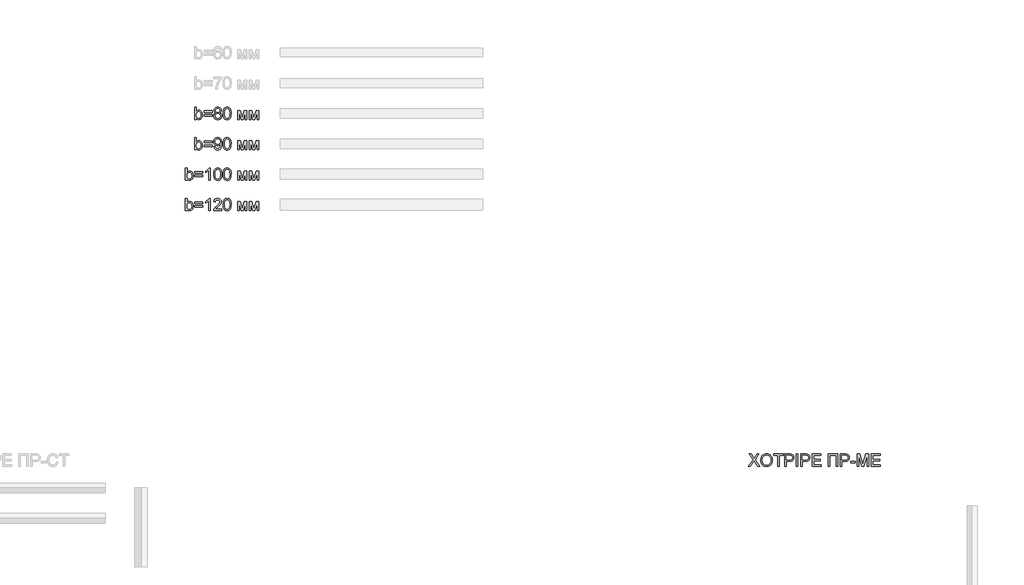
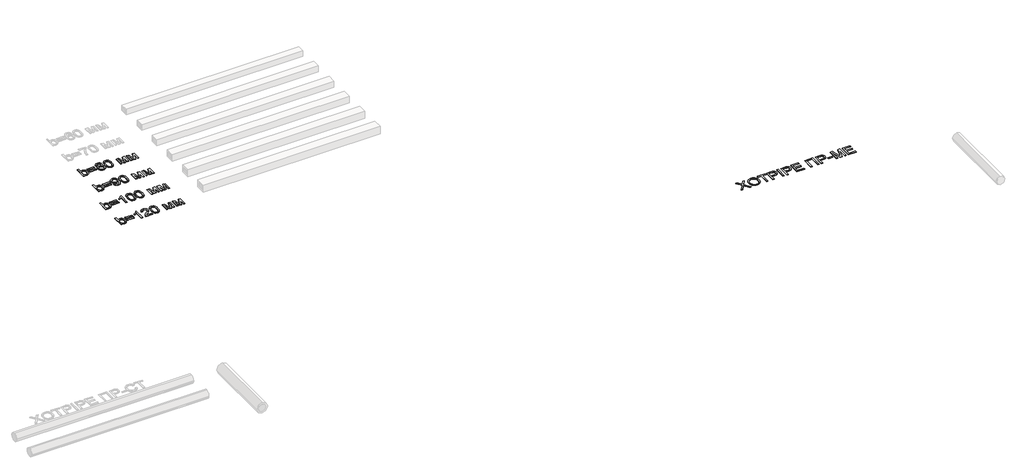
# One storey, part 68 of 86: 5 proxies.
"""IFC4 building model written with IfcOpenShell, lengths in millimetres."""

from ifc_helpers import new_model, si_unit, origin, origin_with_axes, place, context, project, spatial, polyline, outline, extrude, element, save

model = new_model("IFC4")

# Units and contexts
model_context = context("Model", 3, world=origin())
ifc_project = project(units=[si_unit("LENGTHUNIT", "METRE", prefix="MILLI")], contexts=[model_context])

# Site, building, storey
site = spatial("IfcSite", under=ifc_project)
building = spatial("IfcBuilding", under=site)
storey = spatial("IfcBuildingStorey", under=building, Name="Уровень 1", Elevation=0.0)

# Proxies
placement = place(None, origin())
element("IfcBuildingElementProxy", 1, Name="Текст модели 1", ObjectType="Текст модели 1", at=placement, inside=storey, context=model_context, shape_type="SweptSolid", body=[
    extrude(outline(polyline([(89771.0068445, 47669.2937088), (89695.6646119, 47669.2937088), (89695.6646119, 48272.0315697), (89771.0068445, 48272.0315697), (89771.0068445, 48048.5064694), (89795.7836969, 48080.3742473), (89823.7611226, 48103.1369457), (89854.9391217, 48116.7945648), (89889.3176942, 48121.3471045), (89928.1292447, 48117.2452202), (89964.8070796, 48104.9395675), (89997.2542716, 48085.2026984), (90023.3738932, 48058.8071653), (90043.8465263, 48026.0104854), (90059.3527524, 47987.0701762), (90069.1200193, 47943.6049185), (90072.375775, 47897.233393), (90069.0050562, 47843.7249568), (90058.8928999, 47796.6544555), (90042.039306, 47756.0218892), (90018.4442745, 47721.8272577), (89990.1219594, 47694.7235517), (89959.0865146, 47675.3637617), (89925.33794, 47663.7478877), (89888.8762358, 47659.8759297), (89853.3664262, 47664.8699278), (89821.8849245, 47679.8519221), (89794.4317306, 47704.8219125), (89771.0068445, 47739.7798991), (89771.0068445, 47669.2937088)]), holes=[polyline([(89771.0068445, 47893.7017259), (89776.1571925, 47830.8674811), (89782.5951274, 47807.065516), (89791.6082363, 47788.3403224), (89809.8643803, 47765.0993774), (89831.0819744, 47748.4987024), (89855.2610185, 47738.5382973), (89882.4015127, 47735.2181623), (89904.9342849, 47737.6645776), (89925.8851645, 47745.0038234), (89945.2541516, 47757.2358997), (89963.041246, 47774.3608066), (89977.9128757, 47796.3325588), (89988.5354683, 47823.105171), (89994.9090239, 47854.6786432), (89997.0335424, 47891.0529755), (89994.9963958, 47928.1170865), (89988.8849562, 47959.9940614), (89978.6992234, 47986.6839001), (89964.4391976, 48008.1866028), (89947.2912981, 48024.7320955), (89928.4419444, 48036.5503046), (89907.8911364, 48043.64123), (89885.6388742, 48046.0048719), (89863.106102, 48043.5584566), (89842.1552224, 48036.2192108), (89822.7862354, 48023.9871344), (89804.9991409, 48006.8622276), (89790.1275112, 47985.1112046), (89779.5049186, 47959.00078), (89773.1313631, 47928.5309538), (89771.0068445, 47893.7017259)])]), origin_with_axes(), (0.0, 0.0, 1.0), 20.0),
    extrude(outline(polyline([(90543.2647288, 48017.7515346), (90147.7180076, 48017.7515346), (90147.7180076, 48093.0937672), (90543.2647288, 48093.0937672), (90543.2647288, 48017.7515346)])), origin_with_axes(), (0.0, 0.0, 1.0), 20.0),
    extrude(outline(polyline([(90543.2647288, 47838.8137322), (90147.7180076, 47838.8137322), (90147.7180076, 47914.1559648), (90543.2647288, 47914.1559648), (90543.2647288, 47838.8137322)])), origin_with_axes(), (0.0, 0.0, 1.0), 20.0),
    extrude(outline(polyline([(90737.8007279, 48001.2704212), (90697.4624671, 48021.136049), (90681.8044897, 48033.7176132), (90669.1539476, 48048.065011), (90652.4337109, 48081.5054844), (90646.8602987, 48120.9056461), (90649.8953251, 48151.6329897), (90659.0004045, 48179.8035535), (90674.1755368, 48205.4173374), (90695.420722, 48228.4743415), (90721.7150876, 48247.5306288), (90752.0377611, 48261.1422626), (90786.3887424, 48269.3092429), (90824.7680315, 48272.0315697), (90863.3312617, 48269.2448636), (90897.9397604, 48260.8847452), (90928.5935276, 48246.9512147), (90955.2925634, 48227.4442719), (90976.9240247, 48203.9366124), (90992.3750685, 48178.0009317), (91001.6456948, 48149.6372299), (91004.7359036, 48118.8455069), (90999.2360677, 48080.7145381), (90982.7365603, 48047.8442818), (90970.3159444, 48033.593453), (90955.0534401, 48021.0808667), (90916.0027663, 48001.2704212), (90940.7658231, 47990.7352006), (90962.3742918, 47977.3764857), (90980.8281724, 47961.1942764), (90996.1274649, 47942.1885728), (91008.1342135, 47920.7824392), (91016.7104625, 47897.3989399), (91021.8562119, 47872.0380749), (91023.5714617, 47844.6998441), (91020.1685533, 47807.1206983), (91009.9598279, 47772.6685494), (90992.9452856, 47741.3433976), (90969.1249264, 47713.1452426), (90939.7495491, 47689.8399182), (90906.0699525, 47673.1932579), (90868.0861365, 47663.2052618), (90825.7981011, 47659.8759297), (90783.5100658, 47663.2190574), (90745.5262498, 47673.2484402), (90711.8466531, 47689.9640784), (90682.4712758, 47713.3659718), (90658.6509166, 47741.7618633), (90641.6363743, 47773.4594957), (90631.427649, 47808.458869), (90628.0247405, 47846.7599833), (90629.8089682, 47875.3444143), (90635.1616512, 47901.5008242), (90644.0827896, 47925.2292128), (90656.5723833, 47946.5295804), (90672.3545209, 47965.0156506), (90691.1532909, 47980.3011475), (90712.9686932, 47992.3860711), (90737.8007279, 48001.2704212)]), holes=[polyline([(90722.2025313, 48118.6983541), (90723.8717958, 48101.4262944), (90728.8795895, 48085.8097037), (90737.2259122, 48071.848582), (90748.9107641, 48059.5429293), (90763.7869923, 48049.4997508), (90781.707444, 48042.3260519), (90802.6721192, 48038.0218326), (90826.6810179, 48036.5870928), (90850.0967069, 48038.0126355), (90870.6061281, 48042.2892637), (90888.2092816, 48049.4169774), (90902.9061673, 48059.3957765), (90914.4944501, 48071.4439118), (90922.771795, 48084.7796342), (90927.738202, 48099.4029435), (90929.393671, 48115.3138398), (90927.6830197, 48131.8455369), (90922.5510658, 48147.0068736), (90913.9978095, 48160.7978499), (90902.0232505, 48173.2184658), (90886.995271, 48183.486972), (90869.2817529, 48190.8216193), (90848.8826963, 48195.2224076), (90825.7981011, 48196.6893371), (90802.5341634, 48195.2545973), (90782.0385378, 48190.950378), (90764.3112241, 48183.7766791), (90749.3522225, 48173.7335006), (90737.4742326, 48161.6853652), (90728.9899541, 48148.4967957), (90723.899387, 48134.167792), (90722.2025313, 48118.6983541)]), polyline([(90703.3669731, 47849.4087336), (90706.5123642, 47820.5851793), (90715.9485374, 47792.68133), (90733.3677498, 47768.345936), (90760.4622588, 47750.2277477), (90792.9094507, 47738.9705587), (90826.3867123, 47735.2181623), (90853.628374, 47737.1909295), (90877.6694624, 47743.1092311), (90898.5099775, 47752.9730671), (90916.1499191, 47766.7824375), (90930.1846172, 47783.6360314), (90940.2094016, 47802.632538), (90946.2242722, 47823.7719571), (90948.2292291, 47847.0542889), (90946.1598929, 47870.7091012), (90939.9518842, 47892.2301979), (90929.6052031, 47911.617579), (90915.1198495, 47928.8712446), (90897.0016613, 47943.0347014), (90875.7564761, 47953.1514563), (90851.3842939, 47959.2215092), (90823.8851147, 47961.2448602), (90797.0435247, 47959.2491003), (90773.3197345, 47953.2618209), (90752.7137442, 47943.2830218), (90735.2255539, 47929.312703), (90721.2874248, 47912.344146), (90711.3316183, 47893.3706321), (90705.3581344, 47872.3921613), (90703.3669731, 47849.4087336)])]), origin_with_axes(), (0.0, 0.0, 1.0), 20.0),
    extrude(outline(polyline([(91089.4959153, 47965.8065969), (91095.0325393, 48062.2836501), (91101.9533193, 48103.1967265), (91111.6424114, 48139.2261694), (91124.0584287, 48170.6662845), (91139.1599846, 48197.8113772), (91156.9470791, 48220.6614476), (91177.4197121, 48239.2164957), (91200.6468616, 48253.5730906), (91226.6975054, 48263.8278012), (91255.5716435, 48269.9806276), (91287.2692759, 48272.0315697), (91333.6959837, 48267.1755274), (91375.2666491, 48252.6074004), (91410.0314977, 48228.8974058), (91436.0407547, 48196.6157607), (91455.6856533, 48156.0383766), (91471.3574262, 48107.4411651), (91481.6213339, 48045.7289604), (91485.0426365, 47965.8065969), (91479.5611947, 47869.8813667), (91472.7093926, 47829.106246), (91463.1168696, 47793.1227884), (91450.7974212, 47761.6688778), (91435.7648432, 47734.4823983), (91418.0191355, 47711.56335), (91397.560298, 47692.9117329), (91374.3055574, 47678.458569), (91348.1721402, 47668.1348805), (91319.1600463, 47661.9406674), (91287.2692759, 47659.8759297), (91245.7721868, 47663.4627792), (91208.9839873, 47674.2233275), (91176.9046773, 47692.1575748), (91149.5342569, 47717.265521), (91123.2674824, 47762.6529621), (91104.5055007, 47819.2056218), (91093.2483116, 47886.9235001), (91089.4959153, 47965.8065969)]), holes=[polyline([(91164.8381479, 47965.9537497), (91167.0454398, 47900.456959), (91173.6673158, 47847.440565), (91184.7037756, 47806.9045676), (91200.1548194, 47778.848967), (91218.8432248, 47759.7604899), (91239.5917693, 47746.1258635), (91262.400453, 47737.9450876), (91287.2692759, 47735.2181623), (91312.1380987, 47737.9542847), (91334.9467824, 47746.1626517), (91355.695327, 47759.8432634), (91374.3837323, 47778.9961198), (91389.8347761, 47807.0977057), (91400.871236, 47847.624506), (91407.4931119, 47900.5765206), (91409.7004039, 47965.9537497), (91407.5666883, 48029.7168965), (91401.1655416, 48081.79979), (91390.4969637, 48122.2024301), (91375.5609547, 48150.9248169), (91357.185249, 48170.9467945), (91336.1975812, 48185.248207), (91312.5979512, 48193.8290546), (91286.3863591, 48196.6893371), (91261.6462949, 48194.1693454), (91239.2238873, 48186.6093704), (91219.1191363, 48174.0094121), (91201.3320418, 48156.3694704), (91185.3659632, 48125.0995008), (91173.9616213, 48082.9402242), (91167.1190162, 48029.8916405), (91164.8381479, 47965.9537497)])]), origin_with_axes(), (0.0, 0.0, 1.0), 20.0),
    extrude(outline(polyline([(91805.2471251, 48111.9293254), (91934.8887402, 48111.9293254), (92034.8054901, 47757.5853876), (92142.5213382, 48111.9293254), (92266.7182998, 48111.9293254), (92266.7182998, 47669.2937088), (92191.3760672, 47669.2937088), (92191.3760672, 48025.6977857), (92083.0716078, 47669.2937088), (91984.1849275, 47669.2937088), (91880.5893577, 48042.7675103), (91880.5893577, 47669.2937088), (91805.2471251, 47669.2937088), (91805.2471251, 48111.9293254)])), origin_with_axes(), (0.0, 0.0, 1.0), 20.0),
    extrude(outline(polyline([(92379.7316487, 48111.9293254), (92509.3732638, 48111.9293254), (92609.2900137, 47757.5853876), (92717.0058619, 48111.9293254), (92841.2028235, 48111.9293254), (92841.2028235, 47669.2937088), (92765.8605909, 47669.2937088), (92765.8605909, 48025.6977857), (92657.5561315, 47669.2937088), (92558.6694512, 47669.2937088), (92455.0738813, 48042.7675103), (92455.0738813, 47669.2937088), (92379.7316487, 47669.2937088), (92379.7316487, 48111.9293254)])), origin_with_axes(), (0.0, 0.0, 1.0), 20.0),
])
element("IfcBuildingElementProxy", 2, Name="Текст модели 1", ObjectType="Текст модели 1", at=placement, inside=storey, context=model_context, shape_type="SweptSolid", body=[
    extrude(outline(polyline([(89771.0068445, 46169.2937088), (89695.6646119, 46169.2937088), (89695.6646119, 46772.0315697), (89771.0068445, 46772.0315697), (89771.0068445, 46548.5064694), (89795.7836969, 46580.3742473), (89823.7611226, 46603.1369457), (89854.9391217, 46616.7945648), (89889.3176942, 46621.3471045), (89928.1292447, 46617.2452202), (89964.8070796, 46604.9395675), (89997.2542716, 46585.2026984), (90023.3738932, 46558.8071653), (90043.8465263, 46526.0104854), (90059.3527524, 46487.0701762), (90069.1200193, 46443.6049185), (90072.375775, 46397.233393), (90069.0050562, 46343.7249568), (90058.8928999, 46296.6544555), (90042.039306, 46256.0218892), (90018.4442745, 46221.8272577), (89990.1219594, 46194.7235517), (89959.0865146, 46175.3637617), (89925.33794, 46163.7478877), (89888.8762358, 46159.8759297), (89853.3664262, 46164.8699278), (89821.8849245, 46179.8519221), (89794.4317306, 46204.8219125), (89771.0068445, 46239.7798991), (89771.0068445, 46169.2937088)]), holes=[polyline([(89771.0068445, 46393.7017259), (89776.1571925, 46330.8674811), (89782.5951274, 46307.065516), (89791.6082363, 46288.3403224), (89809.8643803, 46265.0993774), (89831.0819744, 46248.4987024), (89855.2610185, 46238.5382973), (89882.4015127, 46235.2181623), (89904.9342849, 46237.6645776), (89925.8851645, 46245.0038234), (89945.2541516, 46257.2358997), (89963.041246, 46274.3608066), (89977.9128757, 46296.3325588), (89988.5354683, 46323.105171), (89994.9090239, 46354.6786432), (89997.0335424, 46391.0529755), (89994.9963958, 46428.1170865), (89988.8849562, 46459.9940614), (89978.6992234, 46486.6839001), (89964.4391976, 46508.1866028), (89947.2912981, 46524.7320955), (89928.4419444, 46536.5503046), (89907.8911364, 46543.64123), (89885.6388742, 46546.0048719), (89863.106102, 46543.5584566), (89842.1552224, 46536.2192108), (89822.7862354, 46523.9871344), (89804.9991409, 46506.8622276), (89790.1275112, 46485.1112046), (89779.5049186, 46459.00078), (89773.1313631, 46428.5309538), (89771.0068445, 46393.7017259)])]), origin_with_axes(), (0.0, 0.0, 1.0), 20.0),
    extrude(outline(polyline([(90543.2647288, 46517.7515346), (90147.7180076, 46517.7515346), (90147.7180076, 46593.0937672), (90543.2647288, 46593.0937672), (90543.2647288, 46517.7515346)])), origin_with_axes(), (0.0, 0.0, 1.0), 20.0),
    extrude(outline(polyline([(90543.2647288, 46338.8137322), (90147.7180076, 46338.8137322), (90147.7180076, 46414.1559648), (90543.2647288, 46414.1559648), (90543.2647288, 46338.8137322)])), origin_with_axes(), (0.0, 0.0, 1.0), 20.0),
    extrude(outline(polyline([(90637.4425196, 46319.978174), (90712.7847522, 46329.3959531), (90725.660622, 46286.6296712), (90735.1335834, 46270.3646884), (90746.6298957, 46257.5118112), (90760.0208004, 46247.7583398), (90775.1775386, 46240.7915746), (90810.7885157, 46235.2181623), (90842.739067, 46238.8050118), (90871.7833505, 46249.5655601), (90895.9164094, 46266.322585), (90913.1332868, 46287.898864), (90926.1747035, 46316.2625659), (90937.7813804, 46353.3818592), (90945.9483607, 46395.9825942), (90948.6706875, 46440.7906212), (90948.2292291, 46455.505901), (90922.1280015, 46423.6473203), (90887.9701583, 46398.4106154), (90848.2205087, 46381.9662902), (90805.3438622, 46376.4848485), (90769.5535426, 46379.8325746), (90736.6418996, 46389.8757531), (90706.6089332, 46406.6143839), (90679.4546434, 46430.048467), (90656.9540609, 46458.9547948), (90640.8822162, 46492.1101596), (90631.2391094, 46529.5145614), (90628.0247405, 46571.1680003), (90631.3954593, 46614.2101938), (90641.5076156, 46652.8378033), (90658.3612095, 46687.0508288), (90681.956241, 46716.8492704), (90710.628044, 46740.9915264), (90742.7119525, 46758.2359949), (90778.2079665, 46768.582676), (90817.116086, 46772.0315697), (90845.8430713, 46770.063401), (90873.3100608, 46764.158895), (90899.5170544, 46754.3180516), (90924.4640522, 46740.5408709), (90947.3187212, 46723.1216584), (90967.2487283, 46702.3547198), (90984.2540735, 46678.240055), (90998.3347568, 46650.7776641), (91009.3758152, 46618.3856544), (91017.2622855, 46579.4821334), (91021.9941677, 46534.0671011), (91023.5714617, 46482.1405575), (91021.9987662, 46427.6066502), (91017.2806796, 46378.9312638), (91009.417202, 46336.114398), (90998.4083332, 46299.1560531), (90984.2954602, 46267.154918), (90967.1199696, 46239.209682), (90946.8818613, 46215.3203449), (90923.5811354, 46195.4869069), (90897.6868415, 46179.9071044), (90869.668029, 46168.778674), (90839.5246981, 46162.1016158), (90807.2568486, 46159.8759297), (90773.420902, 46162.5016875), (90742.8407112, 46170.3789607), (90715.516276, 46183.5077494), (90691.4475965, 46201.8880536), (90671.2416779, 46225.0232325), (90655.5055255, 46252.4166456), (90644.2391394, 46284.0682928), (90637.4425196, 46319.978174)]), holes=[polyline([(90948.2292291, 46572.9338339), (90946.1966811, 46599.9363724), (90940.099037, 46623.9958548), (90929.9362969, 46645.1122814), (90915.7084607, 46663.2856519), (90898.1145043, 46677.8997642), (90877.8534034, 46688.3384158), (90854.9251581, 46694.6016068), (90829.3297683, 46696.6893371), (90802.915841, 46694.4406584), (90779.0035113, 46687.6946223), (90757.5927792, 46676.4512288), (90738.6836447, 46660.710478), (90723.2326009, 46641.3920747), (90712.196141, 46619.415724), (90705.5742651, 46594.7814259), (90703.3669731, 46567.4891804), (90705.4547034, 46543.0112321), (90711.7178944, 46520.9337139), (90722.156546, 46501.2566257), (90736.7706583, 46483.9799675), (90754.9532259, 46469.9130797), (90776.0972436, 46459.8653027), (90800.2027113, 46453.8366365), (90827.2696291, 46451.8270811), (90852.5109325, 46453.8366365), (90875.4069882, 46459.8653027), (90895.9577961, 46469.9130797), (90914.1633564, 46483.9799675), (90929.0671757, 46501.5969165), (90939.7127609, 46522.2948773), (90946.1001121, 46546.0738497), (90948.2292291, 46572.9338339)])]), origin_with_axes(), (0.0, 0.0, 1.0), 20.0),
    extrude(outline(polyline([(91089.4959153, 46465.8065969), (91095.0325393, 46562.2836501), (91101.9533193, 46603.1967265), (91111.6424114, 46639.2261694), (91124.0584287, 46670.6662845), (91139.1599846, 46697.8113772), (91156.9470791, 46720.6614476), (91177.4197121, 46739.2164957), (91200.6468616, 46753.5730906), (91226.6975054, 46763.8278012), (91255.5716435, 46769.9806276), (91287.2692759, 46772.0315697), (91333.6959837, 46767.1755274), (91375.2666491, 46752.6074004), (91410.0314977, 46728.8974058), (91436.0407547, 46696.6157607), (91455.6856533, 46656.0383766), (91471.3574262, 46607.4411651), (91481.6213339, 46545.7289604), (91485.0426365, 46465.8065969), (91479.5611947, 46369.8813667), (91472.7093926, 46329.106246), (91463.1168696, 46293.1227884), (91450.7974212, 46261.6688778), (91435.7648432, 46234.4823983), (91418.0191355, 46211.56335), (91397.560298, 46192.9117329), (91374.3055574, 46178.458569), (91348.1721402, 46168.1348805), (91319.1600463, 46161.9406674), (91287.2692759, 46159.8759297), (91245.7721868, 46163.4627792), (91208.9839873, 46174.2233275), (91176.9046773, 46192.1575748), (91149.5342569, 46217.265521), (91123.2674824, 46262.6529621), (91104.5055007, 46319.2056218), (91093.2483116, 46386.9235001), (91089.4959153, 46465.8065969)]), holes=[polyline([(91164.8381479, 46465.9537497), (91167.0454398, 46400.456959), (91173.6673158, 46347.440565), (91184.7037756, 46306.9045676), (91200.1548194, 46278.848967), (91218.8432248, 46259.7604899), (91239.5917693, 46246.1258635), (91262.400453, 46237.9450876), (91287.2692759, 46235.2181623), (91312.1380987, 46237.9542847), (91334.9467824, 46246.1626517), (91355.695327, 46259.8432634), (91374.3837323, 46278.9961198), (91389.8347761, 46307.0977057), (91400.871236, 46347.624506), (91407.4931119, 46400.5765206), (91409.7004039, 46465.9537497), (91407.5666883, 46529.7168965), (91401.1655416, 46581.79979), (91390.4969637, 46622.2024301), (91375.5609547, 46650.9248169), (91357.185249, 46670.9467945), (91336.1975812, 46685.248207), (91312.5979512, 46693.8290546), (91286.3863591, 46696.6893371), (91261.6462949, 46694.1693454), (91239.2238873, 46686.6093704), (91219.1191363, 46674.0094121), (91201.3320418, 46656.3694704), (91185.3659632, 46625.0995008), (91173.9616213, 46582.9402242), (91167.1190162, 46529.8916405), (91164.8381479, 46465.9537497)])]), origin_with_axes(), (0.0, 0.0, 1.0), 20.0),
    extrude(outline(polyline([(91805.2471251, 46611.9293254), (91934.8887402, 46611.9293254), (92034.8054901, 46257.5853876), (92142.5213382, 46611.9293254), (92266.7182998, 46611.9293254), (92266.7182998, 46169.2937088), (92191.3760672, 46169.2937088), (92191.3760672, 46525.6977857), (92083.0716078, 46169.2937088), (91984.1849275, 46169.2937088), (91880.5893577, 46542.7675103), (91880.5893577, 46169.2937088), (91805.2471251, 46169.2937088), (91805.2471251, 46611.9293254)])), origin_with_axes(), (0.0, 0.0, 1.0), 20.0),
    extrude(outline(polyline([(92379.7316487, 46611.9293254), (92509.3732638, 46611.9293254), (92609.2900137, 46257.5853876), (92717.0058619, 46611.9293254), (92841.2028235, 46611.9293254), (92841.2028235, 46169.2937088), (92765.8605909, 46169.2937088), (92765.8605909, 46525.6977857), (92657.5561315, 46169.2937088), (92558.6694512, 46169.2937088), (92455.0738813, 46542.7675103), (92455.0738813, 46169.2937088), (92379.7316487, 46169.2937088), (92379.7316487, 46611.9293254)])), origin_with_axes(), (0.0, 0.0, 1.0), 20.0),
])
element("IfcBuildingElementProxy", 3, Name="Текст модели 1", ObjectType="Текст модели 1", at=placement, inside=storey, context=model_context, shape_type="SweptSolid", body=[
    extrude(outline(polyline([(89309.5356698, 44669.2937088), (89234.1934372, 44669.2937088), (89234.1934372, 45272.0315697), (89309.5356698, 45272.0315697), (89309.5356698, 45048.5064694), (89334.3125222, 45080.3742473), (89362.2899479, 45103.1369457), (89393.467947, 45116.7945648), (89427.8465194, 45121.3471045), (89466.6580699, 45117.2452202), (89503.3359048, 45104.9395675), (89535.7830968, 45085.2026984), (89561.9027185, 45058.8071653), (89582.3753515, 45026.0104854), (89597.8815776, 44987.0701762), (89607.6488446, 44943.6049185), (89610.9046002, 44897.233393), (89607.5338815, 44843.7249568), (89597.4217251, 44796.6544555), (89580.5681312, 44756.0218892), (89556.9730997, 44721.8272577), (89528.6507846, 44694.7235517), (89497.6153398, 44675.3637617), (89463.8667653, 44663.7478877), (89427.405061, 44659.8759297), (89391.8952515, 44664.8699278), (89360.4137497, 44679.8519221), (89332.9605558, 44704.8219125), (89309.5356698, 44739.7798991), (89309.5356698, 44669.2937088)]), holes=[polyline([(89309.5356698, 44893.7017259), (89314.6860177, 44830.8674811), (89321.1239526, 44807.065516), (89330.1370615, 44788.3403224), (89348.3932055, 44765.0993774), (89369.6107996, 44748.4987024), (89393.7898437, 44738.5382973), (89420.9303379, 44735.2181623), (89443.4631101, 44737.6645776), (89464.4139898, 44745.0038234), (89483.7829768, 44757.2358997), (89501.5700713, 44774.3608066), (89516.4417009, 44796.3325588), (89527.0642935, 44823.105171), (89533.4378491, 44854.6786432), (89535.5623676, 44891.0529755), (89533.5252211, 44928.1170865), (89527.4137814, 44959.9940614), (89517.2280487, 44986.6839001), (89502.9680229, 45008.1866028), (89485.8201234, 45024.7320955), (89466.9707696, 45036.5503046), (89446.4199617, 45043.64123), (89424.1676995, 45046.0048719), (89401.6349273, 45043.5584566), (89380.6840477, 45036.2192108), (89361.3150606, 45023.9871344), (89343.5279661, 45006.8622276), (89328.6563365, 44985.1112046), (89318.0337439, 44959.00078), (89311.6601883, 44928.5309538), (89309.5356698, 44893.7017259)])]), origin_with_axes(), (0.0, 0.0, 1.0), 20.0),
    extrude(outline(polyline([(90081.7935541, 45017.7515346), (89686.2468329, 45017.7515346), (89686.2468329, 45093.0937672), (90081.7935541, 45093.0937672), (90081.7935541, 45017.7515346)])), origin_with_axes(), (0.0, 0.0, 1.0), 20.0),
    extrude(outline(polyline([(90081.7935541, 44838.8137322), (89686.2468329, 44838.8137322), (89686.2468329, 44914.1559648), (90081.7935541, 44914.1559648), (90081.7935541, 44838.8137322)])), origin_with_axes(), (0.0, 0.0, 1.0), 20.0),
    extrude(outline(polyline([(90449.086938, 44669.2937088), (90373.7447054, 44669.2937088), (90373.7447054, 45139.0054402), (90342.2907949, 45113.5664003), (90302.3755984, 45088.1641485), (90260.4738391, 45065.9624701), (90223.0602402, 45050.1251502), (90223.0602402, 45121.3471045), (90282.2340591, 45153.5367791), (90333.4984152, 45191.8332947), (90373.9102523, 45232.5578316), (90400.5265147, 45272.0315697), (90449.086938, 45272.0315697), (90449.086938, 44669.2937088)])), origin_with_axes(), (0.0, 0.0, 1.0), 20.0),
    extrude(outline(polyline([(90628.0247405, 44965.8065969), (90633.5613645, 45062.2836501), (90640.4821446, 45103.1967265), (90650.1712366, 45139.2261694), (90662.587254, 45170.6662845), (90677.6888099, 45197.8113772), (90695.4759043, 45220.6614476), (90715.9485374, 45239.2164957), (90739.1756868, 45253.5730906), (90765.2263306, 45263.8278012), (90794.1004687, 45269.9806276), (90825.7981011, 45272.0315697), (90872.2248089, 45267.1755274), (90913.7954744, 45252.6074004), (90948.5603229, 45228.8974058), (90974.56958, 45196.6157607), (90994.2144785, 45156.0383766), (91009.8862515, 45107.4411651), (91020.1501592, 45045.7289604), (91023.5714617, 44965.8065969), (91018.09002, 44869.8813667), (91011.2382178, 44829.106246), (91001.6456948, 44793.1227884), (90989.3262465, 44761.6688778), (90974.2936685, 44734.4823983), (90956.5479607, 44711.56335), (90936.0891233, 44692.9117329), (90912.8343826, 44678.458569), (90886.7009654, 44668.1348805), (90857.6888716, 44661.9406674), (90825.7981011, 44659.8759297), (90784.3010121, 44663.4627792), (90747.5128125, 44674.2233275), (90715.4335026, 44692.1575748), (90688.0630821, 44717.265521), (90661.7963077, 44762.6529621), (90643.0343259, 44819.2056218), (90631.7771369, 44886.9235001), (90628.0247405, 44965.8065969)]), holes=[polyline([(90703.3669731, 44965.9537497), (90705.5742651, 44900.456959), (90712.196141, 44847.440565), (90723.2326009, 44806.9045676), (90738.6836447, 44778.848967), (90757.37205, 44759.7604899), (90778.1205945, 44746.1258635), (90800.9292782, 44737.9450876), (90825.7981011, 44735.2181623), (90850.666924, 44737.9542847), (90873.4756077, 44746.1626517), (90894.2241522, 44759.8432634), (90912.9125576, 44778.9961198), (90928.3636014, 44807.0977057), (90939.4000612, 44847.624506), (90946.0219371, 44900.5765206), (90948.2292291, 44965.9537497), (90946.0955135, 45029.7168965), (90939.6943668, 45081.79979), (90929.025789, 45122.2024301), (90914.08978, 45150.9248169), (90895.7140743, 45170.9467945), (90874.7264065, 45185.248207), (90851.1267765, 45193.8290546), (90824.9151843, 45196.6893371), (90800.1751201, 45194.1693454), (90777.7527125, 45186.6093704), (90757.6479615, 45174.0094121), (90739.860867, 45156.3694704), (90723.8947884, 45125.0995008), (90712.4904466, 45082.9402242), (90705.6478415, 45029.8916405), (90703.3669731, 44965.9537497)])]), origin_with_axes(), (0.0, 0.0, 1.0), 20.0),
    extrude(outline(polyline([(91089.4959153, 44965.8065969), (91095.0325393, 45062.2836501), (91101.9533193, 45103.1967265), (91111.6424114, 45139.2261694), (91124.0584287, 45170.6662845), (91139.1599846, 45197.8113772), (91156.9470791, 45220.6614476), (91177.4197121, 45239.2164957), (91200.6468616, 45253.5730906), (91226.6975054, 45263.8278012), (91255.5716435, 45269.9806276), (91287.2692759, 45272.0315697), (91333.6959837, 45267.1755274), (91375.2666491, 45252.6074004), (91410.0314977, 45228.8974058), (91436.0407547, 45196.6157607), (91455.6856533, 45156.0383766), (91471.3574262, 45107.4411651), (91481.6213339, 45045.7289604), (91485.0426365, 44965.8065969), (91479.5611947, 44869.8813667), (91472.7093926, 44829.106246), (91463.1168696, 44793.1227884), (91450.7974212, 44761.6688778), (91435.7648432, 44734.4823983), (91418.0191355, 44711.56335), (91397.560298, 44692.9117329), (91374.3055574, 44678.458569), (91348.1721402, 44668.1348805), (91319.1600463, 44661.9406674), (91287.2692759, 44659.8759297), (91245.7721868, 44663.4627792), (91208.9839873, 44674.2233275), (91176.9046773, 44692.1575748), (91149.5342569, 44717.265521), (91123.2674824, 44762.6529621), (91104.5055007, 44819.2056218), (91093.2483116, 44886.9235001), (91089.4959153, 44965.8065969)]), holes=[polyline([(91164.8381479, 44965.9537497), (91167.0454398, 44900.456959), (91173.6673158, 44847.440565), (91184.7037756, 44806.9045676), (91200.1548194, 44778.848967), (91218.8432248, 44759.7604899), (91239.5917693, 44746.1258635), (91262.400453, 44737.9450876), (91287.2692759, 44735.2181623), (91312.1380987, 44737.9542847), (91334.9467824, 44746.1626517), (91355.695327, 44759.8432634), (91374.3837323, 44778.9961198), (91389.8347761, 44807.0977057), (91400.871236, 44847.624506), (91407.4931119, 44900.5765206), (91409.7004039, 44965.9537497), (91407.5666883, 45029.7168965), (91401.1655416, 45081.79979), (91390.4969637, 45122.2024301), (91375.5609547, 45150.9248169), (91357.185249, 45170.9467945), (91336.1975812, 45185.248207), (91312.5979512, 45193.8290546), (91286.3863591, 45196.6893371), (91261.6462949, 45194.1693454), (91239.2238873, 45186.6093704), (91219.1191363, 45174.0094121), (91201.3320418, 45156.3694704), (91185.3659632, 45125.0995008), (91173.9616213, 45082.9402242), (91167.1190162, 45029.8916405), (91164.8381479, 44965.9537497)])]), origin_with_axes(), (0.0, 0.0, 1.0), 20.0),
    extrude(outline(polyline([(91805.2471251, 45111.9293254), (91934.8887402, 45111.9293254), (92034.8054901, 44757.5853876), (92142.5213382, 45111.9293254), (92266.7182998, 45111.9293254), (92266.7182998, 44669.2937088), (92191.3760672, 44669.2937088), (92191.3760672, 45025.6977857), (92083.0716078, 44669.2937088), (91984.1849275, 44669.2937088), (91880.5893577, 45042.7675103), (91880.5893577, 44669.2937088), (91805.2471251, 44669.2937088), (91805.2471251, 45111.9293254)])), origin_with_axes(), (0.0, 0.0, 1.0), 20.0),
    extrude(outline(polyline([(92379.7316487, 45111.9293254), (92509.3732638, 45111.9293254), (92609.2900137, 44757.5853876), (92717.0058619, 45111.9293254), (92841.2028235, 45111.9293254), (92841.2028235, 44669.2937088), (92765.8605909, 44669.2937088), (92765.8605909, 45025.6977857), (92657.5561315, 44669.2937088), (92558.6694512, 44669.2937088), (92455.0738813, 45042.7675103), (92455.0738813, 44669.2937088), (92379.7316487, 44669.2937088), (92379.7316487, 45111.9293254)])), origin_with_axes(), (0.0, 0.0, 1.0), 20.0),
])
element("IfcBuildingElementProxy", 4, Name="Текст модели 1", ObjectType="Текст модели 1", at=placement, inside=storey, context=model_context, shape_type="SweptSolid", body=[
    extrude(outline(polyline([(89309.5356698, 43169.2937088), (89234.1934372, 43169.2937088), (89234.1934372, 43772.0315697), (89309.5356698, 43772.0315697), (89309.5356698, 43548.5064694), (89334.3125222, 43580.3742473), (89362.2899479, 43603.1369457), (89393.467947, 43616.7945648), (89427.8465194, 43621.3471045), (89466.6580699, 43617.2452202), (89503.3359048, 43604.9395675), (89535.7830968, 43585.2026984), (89561.9027185, 43558.8071653), (89582.3753515, 43526.0104854), (89597.8815776, 43487.0701762), (89607.6488446, 43443.6049185), (89610.9046002, 43397.233393), (89607.5338815, 43343.7249568), (89597.4217251, 43296.6544555), (89580.5681312, 43256.0218892), (89556.9730997, 43221.8272577), (89528.6507846, 43194.7235517), (89497.6153398, 43175.3637617), (89463.8667653, 43163.7478877), (89427.405061, 43159.8759297), (89391.8952515, 43164.8699278), (89360.4137497, 43179.8519221), (89332.9605558, 43204.8219125), (89309.5356698, 43239.7798991), (89309.5356698, 43169.2937088)]), holes=[polyline([(89309.5356698, 43393.7017259), (89314.6860177, 43330.8674811), (89321.1239526, 43307.065516), (89330.1370615, 43288.3403224), (89348.3932055, 43265.0993774), (89369.6107996, 43248.4987024), (89393.7898437, 43238.5382973), (89420.9303379, 43235.2181623), (89443.4631101, 43237.6645776), (89464.4139898, 43245.0038234), (89483.7829768, 43257.2358997), (89501.5700713, 43274.3608066), (89516.4417009, 43296.3325588), (89527.0642935, 43323.105171), (89533.4378491, 43354.6786432), (89535.5623676, 43391.0529755), (89533.5252211, 43428.1170865), (89527.4137814, 43459.9940614), (89517.2280487, 43486.6839001), (89502.9680229, 43508.1866028), (89485.8201234, 43524.7320955), (89466.9707696, 43536.5503046), (89446.4199617, 43543.64123), (89424.1676995, 43546.0048719), (89401.6349273, 43543.5584566), (89380.6840477, 43536.2192108), (89361.3150606, 43523.9871344), (89343.5279661, 43506.8622276), (89328.6563365, 43485.1112046), (89318.0337439, 43459.00078), (89311.6601883, 43428.5309538), (89309.5356698, 43393.7017259)])]), origin_with_axes(), (0.0, 0.0, 1.0), 20.0),
    extrude(outline(polyline([(90081.7935541, 43517.7515346), (89686.2468329, 43517.7515346), (89686.2468329, 43593.0937672), (90081.7935541, 43593.0937672), (90081.7935541, 43517.7515346)])), origin_with_axes(), (0.0, 0.0, 1.0), 20.0),
    extrude(outline(polyline([(90081.7935541, 43338.8137322), (89686.2468329, 43338.8137322), (89686.2468329, 43414.1559648), (90081.7935541, 43414.1559648), (90081.7935541, 43338.8137322)])), origin_with_axes(), (0.0, 0.0, 1.0), 20.0),
    extrude(outline(polyline([(90449.086938, 43169.2937088), (90373.7447054, 43169.2937088), (90373.7447054, 43639.0054402), (90342.2907949, 43613.5664003), (90302.3755984, 43588.1641485), (90260.4738391, 43565.9624701), (90223.0602402, 43550.1251502), (90223.0602402, 43621.3471045), (90282.2340591, 43653.5367791), (90333.4984152, 43691.8332947), (90373.9102523, 43732.5578316), (90400.5265147, 43772.0315697), (90449.086938, 43772.0315697), (90449.086938, 43169.2937088)])), origin_with_axes(), (0.0, 0.0, 1.0), 20.0),
    extrude(outline(polyline([(91014.1536826, 43244.6359414), (91014.1536826, 43169.2937088), (90618.6069614, 43169.2937088), (90620.2624304, 43195.8180007), (90626.7003653, 43221.2386465), (90645.2784061, 43261.8344247), (90672.4648855, 43301.2161923), (90711.7914708, 43342.4373698), (90766.7898291, 43388.5513779), (90848.09175, 43460.7666136), (90896.8729026, 43514.0727147), (90911.1007387, 43535.8513288), (90921.2634789, 43557.3356373), (90927.3611229, 43578.5256402), (90929.393671, 43599.4213376), (90927.4760861, 43619.0800317), (90921.7233314, 43637.1476362), (90912.1354069, 43653.624151), (90898.7123126, 43668.5095763), (90882.1990095, 43680.8382216), (90863.3404587, 43689.6443969), (90842.1366602, 43694.928102), (90818.587614, 43696.6893371), (90793.778572, 43694.9694888), (90771.5906891, 43689.8099438), (90752.0239655, 43681.2107021), (90735.0784011, 43669.1717638), (90721.3701983, 43654.0977991), (90711.5155593, 43636.3934781), (90705.5144843, 43616.0588008), (90703.3669731, 43593.0937672), (90628.0247405, 43602.5115463), (90634.5040621, 43641.4058703), (90646.2900816, 43675.3889696), (90663.3827988, 43704.4608442), (90685.7822137, 43728.6214943), (90712.9732917, 43747.6134023), (90744.4409979, 43761.1790508), (90780.1853322, 43769.31844), (90820.2062948, 43772.0315697), (90860.5859423, 43769.0149373), (90896.5234147, 43759.9650403), (90928.018712, 43744.8818785), (90955.0718342, 43723.7654519), (90976.7998646, 43698.1792592), (90992.3198862, 43669.6867986), (91001.6318992, 43638.2880704), (91004.7359036, 43603.9830743), (91001.3881774, 43567.9490329), (90991.3449989, 43532.5403908), (90973.5211163, 43496.5247435), (90946.8312775, 43458.6696862), (90904.2857248, 43413.4753831), (90838.8947001, 43355.4419984), (90752.2217021, 43282.9692453), (90718.2294057, 43244.6359414), (91014.1536826, 43244.6359414)])), origin_with_axes(), (0.0, 0.0, 1.0), 20.0),
    extrude(outline(polyline([(91089.4959153, 43465.8065969), (91095.0325393, 43562.2836501), (91101.9533193, 43603.1967265), (91111.6424114, 43639.2261694), (91124.0584287, 43670.6662845), (91139.1599846, 43697.8113772), (91156.9470791, 43720.6614476), (91177.4197121, 43739.2164957), (91200.6468616, 43753.5730906), (91226.6975054, 43763.8278012), (91255.5716435, 43769.9806276), (91287.2692759, 43772.0315697), (91333.6959837, 43767.1755274), (91375.2666491, 43752.6074004), (91410.0314977, 43728.8974058), (91436.0407547, 43696.6157607), (91455.6856533, 43656.0383766), (91471.3574262, 43607.4411651), (91481.6213339, 43545.7289604), (91485.0426365, 43465.8065969), (91479.5611947, 43369.8813667), (91472.7093926, 43329.106246), (91463.1168696, 43293.1227884), (91450.7974212, 43261.6688778), (91435.7648432, 43234.4823983), (91418.0191355, 43211.56335), (91397.560298, 43192.9117329), (91374.3055574, 43178.458569), (91348.1721402, 43168.1348805), (91319.1600463, 43161.9406674), (91287.2692759, 43159.8759297), (91245.7721868, 43163.4627792), (91208.9839873, 43174.2233275), (91176.9046773, 43192.1575748), (91149.5342569, 43217.265521), (91123.2674824, 43262.6529621), (91104.5055007, 43319.2056218), (91093.2483116, 43386.9235001), (91089.4959153, 43465.8065969)]), holes=[polyline([(91164.8381479, 43465.9537497), (91167.0454398, 43400.456959), (91173.6673158, 43347.440565), (91184.7037756, 43306.9045676), (91200.1548194, 43278.848967), (91218.8432248, 43259.7604899), (91239.5917693, 43246.1258635), (91262.400453, 43237.9450876), (91287.2692759, 43235.2181623), (91312.1380987, 43237.9542847), (91334.9467824, 43246.1626517), (91355.695327, 43259.8432634), (91374.3837323, 43278.9961198), (91389.8347761, 43307.0977057), (91400.871236, 43347.624506), (91407.4931119, 43400.5765206), (91409.7004039, 43465.9537497), (91407.5666883, 43529.7168965), (91401.1655416, 43581.79979), (91390.4969637, 43622.2024301), (91375.5609547, 43650.9248169), (91357.185249, 43670.9467945), (91336.1975812, 43685.248207), (91312.5979512, 43693.8290546), (91286.3863591, 43696.6893371), (91261.6462949, 43694.1693454), (91239.2238873, 43686.6093704), (91219.1191363, 43674.0094121), (91201.3320418, 43656.3694704), (91185.3659632, 43625.0995008), (91173.9616213, 43582.9402242), (91167.1190162, 43529.8916405), (91164.8381479, 43465.9537497)])]), origin_with_axes(), (0.0, 0.0, 1.0), 20.0),
    extrude(outline(polyline([(91805.2471251, 43611.9293254), (91934.8887402, 43611.9293254), (92034.8054901, 43257.5853876), (92142.5213382, 43611.9293254), (92266.7182998, 43611.9293254), (92266.7182998, 43169.2937088), (92191.3760672, 43169.2937088), (92191.3760672, 43525.6977857), (92083.0716078, 43169.2937088), (91984.1849275, 43169.2937088), (91880.5893577, 43542.7675103), (91880.5893577, 43169.2937088), (91805.2471251, 43169.2937088), (91805.2471251, 43611.9293254)])), origin_with_axes(), (0.0, 0.0, 1.0), 20.0),
    extrude(outline(polyline([(92379.7316487, 43611.9293254), (92509.3732638, 43611.9293254), (92609.2900137, 43257.5853876), (92717.0058619, 43611.9293254), (92841.2028235, 43611.9293254), (92841.2028235, 43169.2937088), (92765.8605909, 43169.2937088), (92765.8605909, 43525.6977857), (92657.5561315, 43169.2937088), (92558.6694512, 43169.2937088), (92455.0738813, 43542.7675103), (92455.0738813, 43169.2937088), (92379.7316487, 43169.2937088), (92379.7316487, 43611.9293254)])), origin_with_axes(), (0.0, 0.0, 1.0), 20.0),
])
element("IfcBuildingElementProxy", 5, Name="Текст модели 1", ObjectType="Текст модели 1", at=placement, inside=storey, context=model_context, shape_type="SweptSolid", body=[
    extrude(outline(polyline([(117013.6552231, 30543.2937088), (117246.0094913, 30871.7387541), (117051.3263394, 31146.0315697), (117141.6781574, 31146.0315697), (117251.306992, 30991.6682845), (117277.4634018, 30952.5624284), (117288.2423443, 30931.4827901), (117331.5052669, 30992.6983541), (117439.9568791, 31146.0315697), (117531.6330723, 31146.0315697), (117336.9499205, 30870.8558373), (117569.3041886, 30543.2937088), (117478.9523706, 30543.2937088), (117324.147627, 30761.6684611), (117291.9211643, 30806.9915229), (117256.4573399, 30757.2538772), (117105.3314163, 30543.2937088), (117013.6552231, 30543.2937088)])), origin_with_axes(), (0.0, 0.0, 1.0), 20.0),
    extrude(outline(polyline([(117616.393084, 30836.7163882), (117621.4146732, 30907.4141106), (117636.4794409, 30970.000035), (117661.5873871, 31024.4741614), (117677.9075521, 31048.6693004), (117696.7385118, 31070.8364899), (117739.8266904, 31107.8546156), (117788.7457987, 31134.2961341), (117843.4958367, 31150.1610451), (117904.0768042, 31155.4493488), (117944.6265972, 31152.9661453), (117983.134645, 31145.5165349), (118019.6009478, 31133.1005176), (118054.0255055, 31115.7180933), (118085.4426279, 31093.8934939), (118112.8866247, 31068.1509513), (118136.357496, 31038.4904655), (118155.8552417, 31004.9120363), (118171.1775268, 30968.1790191), (118182.1220162, 30929.0547689), (118188.6887098, 30887.5392858), (118190.8776077, 30843.6325697), (118188.5737467, 30799.1464394), (118181.6621637, 30757.0699362), (118170.1428587, 30717.4030601), (118154.0158318, 30680.145811), (118133.6627604, 30646.2822733), (118109.4653221, 30616.7965314), (118081.4235171, 30591.6885853), (118049.5373451, 30570.9584348), (118015.0622037, 30554.7348388), (117979.2534899, 30543.146556), (117942.111204, 30536.1935863), (117903.6353458, 30533.8759297), (117862.3773801, 30536.4373081), (117823.3634945, 30544.1214433), (117786.5936891, 30556.9283352), (117752.0679638, 30574.857984), (117720.6876296, 30597.2160122), (117693.3539974, 30623.3080427), (117670.0670671, 30653.1340755), (117650.8268388, 30686.6941105), (117635.7620711, 30722.64078), (117625.0015227, 30759.6267161), (117618.5451937, 30797.6519188), (117616.393084, 30836.7163882)]), holes=[polyline([(117691.7353166, 30835.9806242), (117695.5015085, 30786.0314463), (117706.8000843, 30741.6924688), (117725.6310439, 30702.9636918), (117751.9943874, 30669.8451151), (117784.0415077, 30643.3208233), (117819.9237978, 30624.3749005), (117859.6412577, 30613.0073469), (117903.1938874, 30609.2181623), (117947.4914782, 30613.0441351), (117987.6779876, 30624.5220533), (118023.7534158, 30643.6519171), (118055.7177626, 30670.4337263), (118081.8879681, 30704.2512787), (118100.580972, 30744.488372), (118111.7967743, 30791.145006), (118115.5353751, 30844.2211809), (118113.9350884, 30878.7009209), (118109.1342283, 30910.9181866), (118101.132795, 30940.872978), (118089.9307882, 30968.5652952), (118075.6523683, 30993.6318547), (118058.4216953, 31015.7093729), (118038.2387694, 31034.7978499), (118015.1035904, 31050.8972857), (117989.7335283, 31063.6765866), (117962.845953, 31072.8046586), (117934.4408644, 31078.2815018), (117904.5182626, 31080.1071162), (117862.4785476, 31076.5892446), (117823.4738591, 31066.0356298), (117787.504197, 31048.446272), (117754.5695614, 31023.8211709), (117727.0795793, 30990.9739073), (117707.4438778, 30948.7180616), (117695.6624569, 30897.0536339), (117691.7353166, 30835.9806242)])]), origin_with_axes(), (0.0, 0.0, 1.0), 20.0),
    extrude(outline(polyline([(118445.1576427, 30543.2937088), (118445.1576427, 31070.6893371), (118247.3842821, 31070.6893371), (118247.3842821, 31146.0315697), (118718.273236, 31146.0315697), (118718.273236, 31070.6893371), (118520.4998754, 31070.6893371), (118520.4998754, 30543.2937088), (118445.1576427, 30543.2937088)])), origin_with_axes(), (0.0, 0.0, 1.0), 20.0),
    extrude(outline(polyline([(118803.0332476, 30543.2937088), (118803.0332476, 31146.0315697), (119026.4111951, 31146.0315697), (119078.4297092, 31144.5968299), (119116.4687075, 31140.2926106), (119156.6230273, 31129.5688504), (119189.6772246, 31112.1128497), (119216.2934869, 31087.1336623), (119237.134002, 31053.8403417), (119250.598483, 31014.5689387), (119255.0866433, 30971.655504), (119252.0562154, 30934.6557723), (119242.9649316, 30900.6174907), (119227.8127919, 30869.5406592), (119206.5997964, 30841.4252777), (119177.4773379, 30818.1199533), (119138.5968095, 30801.473293), (119089.9582113, 30791.4852968), (119031.5615431, 30788.1559648), (118878.3754803, 30788.1559648), (118878.3754803, 30543.2937088), (118803.0332476, 30543.2937088)]), holes=[polyline([(118878.3754803, 30863.4981974), (119035.976127, 30863.4981974), (119072.2125035, 30865.2272428), (119102.7834973, 30870.4143789), (119127.6891084, 30879.0596058), (119146.9293367, 30891.1629234), (119161.2859316, 30906.4024351), (119171.5406422, 30924.456244), (119177.6934686, 30945.3243502), (119179.7444107, 30969.0067536), (119174.9067625, 31002.8518972), (119160.3938178, 31031.39954), (119138.0081984, 31052.8838485), (119109.552526, 31065.5389892), (119080.4898484, 31069.4017501), (119034.2102934, 31070.6893371), (118878.3754803, 31070.6893371), (118878.3754803, 30863.4981974)])]), origin_with_axes(), (0.0, 0.0, 1.0), 20.0),
    extrude(outline(polyline([(119368.0999922, 30543.2937088), (119368.0999922, 31146.0315697), (119443.4422249, 31146.0315697), (119443.4422249, 30543.2937088), (119368.0999922, 30543.2937088)])), origin_with_axes(), (0.0, 0.0, 1.0), 20.0),
    extrude(outline(polyline([(119594.1266901, 30543.2937088), (119594.1266901, 31146.0315697), (119817.5046375, 31146.0315697), (119869.5231517, 31144.5968299), (119907.56215, 31140.2926106), (119947.7164697, 31129.5688504), (119980.770667, 31112.1128497), (120007.3869294, 31087.1336623), (120028.2274444, 31053.8403417), (120041.6919254, 31014.5689387), (120046.1800857, 30971.655504), (120043.1496578, 30934.6557723), (120034.058374, 30900.6174907), (120018.9062343, 30869.5406592), (119997.6932388, 30841.4252777), (119968.5707803, 30818.1199533), (119929.690252, 30801.473293), (119881.0516537, 30791.4852968), (119822.6549855, 30788.1559648), (119669.4689227, 30788.1559648), (119669.4689227, 30543.2937088), (119594.1266901, 30543.2937088)]), holes=[polyline([(119669.4689227, 30863.4981974), (119827.0695694, 30863.4981974), (119863.3059459, 30865.2272428), (119893.8769397, 30870.4143789), (119918.7825508, 30879.0596058), (119938.0227792, 30891.1629234), (119952.379374, 30906.4024351), (119962.6340846, 30924.456244), (119968.786911, 30945.3243502), (119970.8378531, 30969.0067536), (119966.0002049, 31002.8518972), (119951.4872602, 31031.39954), (119929.1016408, 31052.8838485), (119900.6459685, 31065.5389892), (119871.5832908, 31069.4017501), (119825.3037358, 31070.6893371), (119669.4689227, 31070.6893371), (119669.4689227, 30863.4981974)])]), origin_with_axes(), (0.0, 0.0, 1.0), 20.0),
    extrude(outline(polyline([(120149.7756556, 30543.2937088), (120149.7756556, 31146.0315697), (120582.9934931, 31146.0315697), (120582.9934931, 31070.6893371), (120225.1178882, 31070.6893371), (120225.1178882, 30891.7515346), (120564.157935, 30891.7515346), (120564.157935, 30816.409302), (120225.1178882, 30816.409302), (120225.1178882, 30618.6359414), (120592.4112722, 30618.6359414), (120592.4112722, 30543.2937088), (120149.7756556, 30543.2937088)])), origin_with_axes(), (0.0, 0.0, 1.0), 20.0),
    extrude(outline(polyline([(120940.869098, 31146.0315697), (121411.7580518, 31146.0315697), (121411.7580518, 30543.2937088), (121336.4158192, 30543.2937088), (121336.4158192, 31070.6893371), (121016.2113306, 31070.6893371), (121016.2113306, 30543.2937088), (120940.869098, 30543.2937088), (120940.869098, 31146.0315697)])), origin_with_axes(), (0.0, 0.0, 1.0), 20.0),
    extrude(outline(polyline([(121543.6069589, 30543.2937088), (121543.6069589, 31146.0315697), (121766.9849064, 31146.0315697), (121819.0034205, 31144.5968299), (121857.0424188, 31140.2926106), (121897.1967386, 31129.5688504), (121930.2509358, 31112.1128497), (121956.8671982, 31087.1336623), (121977.7077132, 31053.8403417), (121991.1721942, 31014.5689387), (121995.6603546, 30971.655504), (121992.6299267, 30934.6557723), (121983.5386428, 30900.6174907), (121968.3865032, 30869.5406592), (121947.1735076, 30841.4252777), (121918.0510492, 30818.1199533), (121879.1705208, 30801.473293), (121830.5319225, 30791.4852968), (121772.1352543, 30788.1559648), (121618.9491915, 30788.1559648), (121618.9491915, 30543.2937088), (121543.6069589, 30543.2937088)]), holes=[polyline([(121618.9491915, 30863.4981974), (121776.5498383, 30863.4981974), (121812.7862148, 30865.2272428), (121843.3572086, 30870.4143789), (121868.2628197, 30879.0596058), (121887.503048, 30891.1629234), (121901.8596429, 30906.4024351), (121912.1143535, 30924.456244), (121918.2671799, 30945.3243502), (121920.318122, 30969.0067536), (121915.4804737, 31002.8518972), (121900.967529, 31031.39954), (121878.5819096, 31052.8838485), (121850.1262373, 31065.5389892), (121821.0635597, 31069.4017501), (121774.7840047, 31070.6893371), (121618.9491915, 31070.6893371), (121618.9491915, 30863.4981974)])]), origin_with_axes(), (0.0, 0.0, 1.0), 20.0),
    extrude(outline(polyline([(122052.167029, 30722.2315113), (122052.167029, 30797.5737439), (122287.611506, 30797.5737439), (122287.611506, 30722.2315113), (122052.167029, 30722.2315113)])), origin_with_axes(), (0.0, 0.0, 1.0), 20.0),
    extrude(outline(polyline([(122381.7892967, 30543.2937088), (122381.7892967, 31146.0315697), (122511.4309118, 31146.0315697), (122634.7449566, 30721.2014417), (122659.6137795, 30632.4683044), (122686.5427415, 30728.5590816), (122807.7966471, 31146.0315697), (122937.4382622, 31146.0315697), (122937.4382622, 30543.2937088), (122862.0960296, 30543.2937088), (122862.0960296, 31070.6893371), (122710.6758004, 30543.2937088), (122608.5517586, 30543.2937088), (122457.1315293, 31070.6893371), (122457.1315293, 30543.2937088), (122381.7892967, 30543.2937088)])), origin_with_axes(), (0.0, 0.0, 1.0), 20.0),
    extrude(outline(polyline([(123069.2871693, 30543.2937088), (123069.2871693, 31146.0315697), (123502.5050068, 31146.0315697), (123502.5050068, 31070.6893371), (123144.6294019, 31070.6893371), (123144.6294019, 30891.7515346), (123483.6694487, 30891.7515346), (123483.6694487, 30816.409302), (123144.6294019, 30816.409302), (123144.6294019, 30618.6359414), (123511.9227859, 30618.6359414), (123511.9227859, 30543.2937088), (123069.2871693, 30543.2937088)])), origin_with_axes(), (0.0, 0.0, 1.0), 20.0),
])

save(model, "model.ifc")
